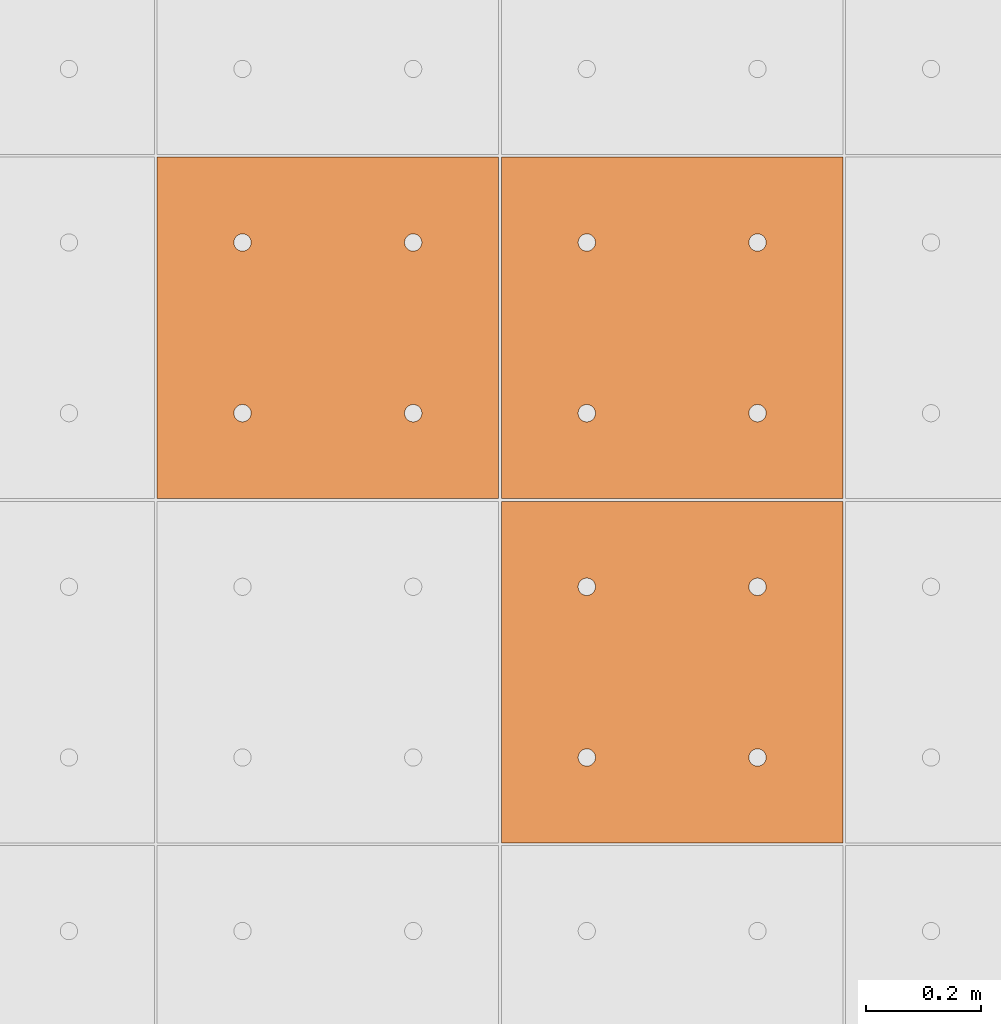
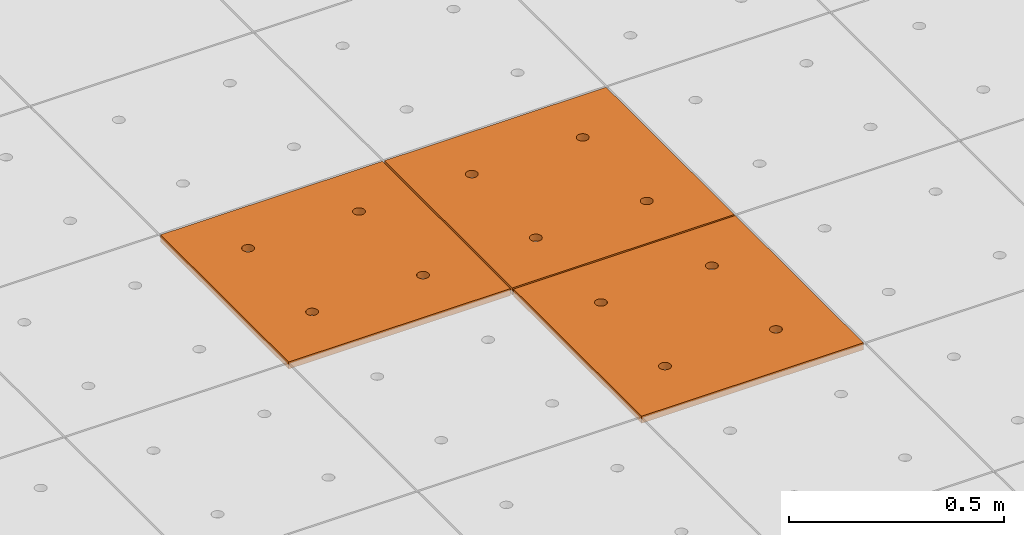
# One storey, part 266 of 338: 3 proxies, 1 element without a shape of its own.
"""IFC2X3 building model written with IfcOpenShell, lengths in millimetres."""

from ifc_helpers import new_model, entity, si_unit, converted_unit, derived_unit, money_unit, direction, frame, origin_with_axes, place, context, subcontext, project, spatial, faceted_brep, source, transform, mapped, material, type_object, type_shapes, element, aggregate, save


model = new_model("IFC2X3")

# Units and contexts
model_context = context("Model", 3, precision=0.01, world=origin_with_axes(), true_north=direction((0.0, 1.0)))
plan_context = context("Plan", 3, precision=0.01, world=origin_with_axes(), true_north=direction((0.0, 1.0)))
body_context = subcontext(model_context, "Body", "Model", "MODEL_VIEW")
ifc_project = project(units=[si_unit("LENGTHUNIT", "METRE", prefix="MILLI"), si_unit("AREAUNIT", "SQUARE_METRE"), si_unit("VOLUMEUNIT", "CUBIC_METRE"), converted_unit("PLANEANGLEUNIT", "DEGREE", entity("IfcPlaneAngleMeasure", 0.0174532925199), si_unit("PLANEANGLEUNIT", "RADIAN"), dimensions=[0, 0, 0, 0, 0, 0, 0]), money_unit("EUR"), converted_unit("TIMEUNIT", "Year", entity("IfcTimeMeasure", 31556926.0), si_unit("TIMEUNIT", "SECOND"), dimensions=[0, 0, 1, 0, 0, 0, 0]), si_unit("MASSUNIT", "GRAM", prefix="KILO"), si_unit("THERMODYNAMICTEMPERATUREUNIT", "DEGREE_CELSIUS"), si_unit("LUMINOUSINTENSITYUNIT", "LUMEN"), si_unit("ENERGYUNIT", "JOULE", prefix="MEGA"), derived_unit("THERMALCONDUCTANCEUNIT", [(si_unit("POWERUNIT", "WATT"), 1), (si_unit("LENGTHUNIT", "METRE"), -1), (si_unit("THERMODYNAMICTEMPERATUREUNIT", "KELVIN"), -1)]), derived_unit("SPECIFICHEATCAPACITYUNIT", [(si_unit("ENERGYUNIT", "JOULE"), 1), (si_unit("MASSUNIT", "GRAM", prefix="KILO"), -1), (si_unit("THERMODYNAMICTEMPERATUREUNIT", "KELVIN"), -1)]), derived_unit("MASSDENSITYUNIT", [(si_unit("MASSUNIT", "GRAM", prefix="KILO"), 1), (si_unit("VOLUMEUNIT", "CUBIC_METRE"), -1)])], contexts=[model_context, plan_context])

# Site, building, storey
site_placement = place(None, origin_with_axes())
site = spatial("IfcSite", under=ifc_project, at=site_placement, Name="Fortuinstraat Woensdrecht", CompositionType="ELEMENT")
building_placement = place(site_placement, origin_with_axes())
building = spatial("IfcBuilding", under=site, at=building_placement, Name="IKC Fortuna", CompositionType="ELEMENT")
storey_placement = place(building_placement, origin_with_axes())
storey = spatial("IfcBuildingStorey", under=building, at=storey_placement, Name="00 begane grond", CompositionType="ELEMENT", Elevation=0.0)

# Covering, proxies
covering_type = type_object("IfcCoveringType", Name="Curtain Wall Type", PredefinedType="CEILING")
covering_placement = place(storey_placement, frame((31656.9226967, 15748.5304598, 3210.0), z_axis=(0.0, 0.0, 1.0), x_axis=(1.0, 0.0, 0.0)))
covering = element("IfcCovering", 1, at=covering_placement, inside=storey, type_object=covering_type, Name="45_Plafondafwerking_P01", PredefinedType="CEILING")
ifc_material = material(Name="Gipsplaat")
building_element_proxy_type = type_object("IfcBuildingElementProxyType", Name="Main Panel 600 x 600 x 20", PredefinedType="NOTDEFINED")
shared_shape = source(origin_with_axes(), body_context, "Body", "Brep", [
    faceted_brep([(2.49999999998, 2.49999999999, -10.0), (300.0, 2.49999999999, -10.0), (300.0, 2.49999999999, 10.0), (2.49999999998, 2.49999999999, 10.0), (2.49999999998, 300.0, -10.0), (2.49999999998, 597.5, -10.0), (300.0, 597.5, -10.0), (597.5, 597.5, -10.0), (597.5, 300.0, -10.0), (597.5, 2.49999999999, -10.0), (166.25, 450.06232995, -10.0), (165.79423259, 452.64711538, -10.0), (164.896546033, 455.11348892, -10.0), (163.58421608, 457.38651108, -10.0), (161.897117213, 459.39711721, -10.0), (159.886511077, 461.08421608, -10.0), (157.613488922, 462.39654603, -10.0), (155.147115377, 463.29423259, -10.0), (152.562329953, 463.75, -10.0), (149.937670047, 463.75, -10.0), (147.352884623, 463.29423259, -10.0), (144.886511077, 462.39654603, -10.0), (142.613488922, 461.08421608, -10.0), (140.602882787, 459.39711721, -10.0), (138.91578392, 457.38651108, -10.0), (137.603453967, 455.11348892, -10.0), (136.705767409, 452.64711538, -10.0), (136.25, 450.06232995, -10.0), (136.25, 448.75, -10.0), (136.25, 447.43767005, -10.0), (136.705767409, 444.85288462, -10.0), (137.603453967, 442.38651108, -10.0), (138.91578392, 440.11348892, -10.0), (140.602882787, 438.10288279, -10.0), (142.613488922, 436.41578392, -10.0), (144.886511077, 435.10345397, -10.0), (147.352884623, 434.20576741, -10.0), (149.937670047, 433.75, -10.0), (152.562329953, 433.75, -10.0), (155.147115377, 434.20576741, -10.0), (157.613488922, 435.10345397, -10.0), (159.886511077, 436.41578392, -10.0), (161.897117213, 438.10288279, -10.0), (163.58421608, 440.11348892, -10.0), (164.896546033, 442.38651108, -10.0), (165.79423259, 444.85288462, -10.0), (166.25, 447.43767005, -10.0), (463.75, 450.06232995, -10.0), (463.29423259, 452.64711538, -10.0), (462.396546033, 455.11348892, -10.0), (461.08421608, 457.38651108, -10.0), (459.397117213, 459.39711721, -10.0), (457.386511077, 461.08421608, -10.0), (455.113488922, 462.39654603, -10.0), (452.647115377, 463.29423259, -10.0), (450.062329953, 463.75, -10.0), (447.437670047, 463.75, -10.0), (444.852884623, 463.29423259, -10.0), (442.386511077, 462.39654603, -10.0), (440.113488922, 461.08421608, -10.0), (438.102882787, 459.39711721, -10.0), (436.41578392, 457.38651108, -10.0), (435.103453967, 455.11348892, -10.0), (434.205767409, 452.64711538, -10.0), (433.75, 450.06232995, -10.0), (433.75, 448.75, -10.0), (433.75, 447.43767005, -10.0), (434.205767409, 444.85288462, -10.0), (435.103453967, 442.38651108, -10.0), (436.41578392, 440.11348892, -10.0), (438.102882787, 438.10288279, -10.0), (440.113488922, 436.41578392, -10.0), (442.386511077, 435.10345397, -10.0), (444.852884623, 434.20576741, -10.0), (447.437670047, 433.75, -10.0), (450.062329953, 433.75, -10.0), (452.647115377, 434.20576741, -10.0), (455.113488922, 435.10345397, -10.0), (457.386511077, 436.41578392, -10.0), (459.397117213, 438.10288279, -10.0), (461.08421608, 440.11348892, -10.0), (462.396546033, 442.38651108, -10.0), (463.29423259, 444.85288462, -10.0), (463.75, 447.43767005, -10.0), (463.75, 152.56232995, -10.0), (463.29423259, 155.14711538, -10.0), (462.396546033, 157.61348892, -10.0), (461.08421608, 159.88651108, -10.0), (459.397117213, 161.89711721, -10.0), (457.386511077, 163.58421608, -10.0), (455.113488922, 164.89654603, -10.0), (452.647115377, 165.79423259, -10.0), (450.062329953, 166.25, -10.0), (447.437670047, 166.25, -10.0), (444.852884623, 165.79423259, -10.0), (442.386511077, 164.89654603, -10.0), (440.113488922, 163.58421608, -10.0), (438.102882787, 161.89711721, -10.0), (436.41578392, 159.88651108, -10.0), (435.103453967, 157.61348892, -10.0), (434.205767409, 155.14711538, -10.0), (433.75, 152.56232995, -10.0), (433.75, 151.25, -10.0), (433.75, 149.93767005, -10.0), (434.205767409, 147.35288462, -10.0), (435.103453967, 144.88651108, -10.0), (436.41578392, 142.61348892, -10.0), (438.102882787, 140.60288279, -10.0), (440.113488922, 138.91578392, -10.0), (442.386511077, 137.60345397, -10.0), (444.852884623, 136.70576741, -10.0), (447.437670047, 136.25, -10.0), (450.062329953, 136.25, -10.0), (452.647115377, 136.70576741, -10.0), (455.113488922, 137.60345397, -10.0), (457.386511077, 138.91578392, -10.0), (459.397117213, 140.60288279, -10.0), (461.08421608, 142.61348892, -10.0), (462.396546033, 144.88651108, -10.0), (463.29423259, 147.35288462, -10.0), (463.75, 149.93767005, -10.0), (166.25, 152.56232995, -10.0), (165.79423259, 155.14711538, -10.0), (164.896546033, 157.61348892, -10.0), (163.58421608, 159.88651108, -10.0), (161.897117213, 161.89711721, -10.0), (159.886511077, 163.58421608, -10.0), (157.613488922, 164.89654603, -10.0), (155.147115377, 165.79423259, -10.0), (152.562329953, 166.25, -10.0), (149.937670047, 166.25, -10.0), (147.352884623, 165.79423259, -10.0), (144.886511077, 164.89654603, -10.0), (142.613488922, 163.58421608, -10.0), (140.602882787, 161.89711721, -10.0), (138.91578392, 159.88651108, -10.0), (137.603453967, 157.61348892, -10.0), (136.705767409, 155.14711538, -10.0), (136.25, 152.56232995, -10.0), (136.25, 151.25, -10.0), (136.25, 149.93767005, -10.0), (136.705767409, 147.35288462, -10.0), (137.603453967, 144.88651108, -10.0), (138.91578392, 142.61348892, -10.0), (140.602882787, 140.60288279, -10.0), (142.613488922, 138.91578392, -10.0), (144.886511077, 137.60345397, -10.0), (147.352884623, 136.70576741, -10.0), (149.937670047, 136.25, -10.0), (152.562329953, 136.25, -10.0), (155.147115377, 136.70576741, -10.0), (157.613488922, 137.60345397, -10.0), (159.886511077, 138.91578392, -10.0), (161.897117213, 140.60288279, -10.0), (163.58421608, 142.61348892, -10.0), (164.896546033, 144.88651108, -10.0), (165.79423259, 147.35288462, -10.0), (166.25, 149.93767005, -10.0), (597.5, 2.49999999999, 10.0), (597.5, 300.0, 10.0), (597.5, 597.5, 10.0), (300.0, 597.5, 10.0), (2.49999999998, 597.5, 10.0), (2.49999999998, 300.0, 10.0), (166.25, 450.06232995, 10.0), (166.25, 447.43767005, 10.0), (165.79423259, 444.85288462, 10.0), (164.896546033, 442.38651108, 10.0), (163.58421608, 440.11348892, 10.0), (161.897117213, 438.10288279, 10.0), (159.886511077, 436.41578392, 10.0), (157.613488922, 435.10345397, 10.0), (155.147115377, 434.20576741, 10.0), (152.562329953, 433.75, 10.0), (149.937670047, 433.75, 10.0), (147.352884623, 434.20576741, 10.0), (144.886511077, 435.10345397, 10.0), (142.613488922, 436.41578392, 10.0), (140.602882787, 438.10288279, 10.0), (138.91578392, 440.11348892, 10.0), (137.603453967, 442.38651108, 10.0), (136.705767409, 444.85288462, 10.0), (136.25, 447.43767005, 10.0), (136.25, 448.75, 10.0), (136.25, 450.06232995, 10.0), (136.705767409, 452.64711538, 10.0), (137.603453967, 455.11348892, 10.0), (138.91578392, 457.38651108, 10.0), (140.602882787, 459.39711721, 10.0), (142.613488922, 461.08421608, 10.0), (144.886511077, 462.39654603, 10.0), (147.352884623, 463.29423259, 10.0), (149.937670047, 463.75, 10.0), (152.562329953, 463.75, 10.0), (155.147115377, 463.29423259, 10.0), (157.613488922, 462.39654603, 10.0), (159.886511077, 461.08421608, 10.0), (161.897117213, 459.39711721, 10.0), (163.58421608, 457.38651108, 10.0), (164.896546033, 455.11348892, 10.0), (165.79423259, 452.64711538, 10.0), (463.75, 450.06232995, 10.0), (463.75, 447.43767005, 10.0), (463.29423259, 444.85288462, 10.0), (462.396546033, 442.38651108, 10.0), (461.08421608, 440.11348892, 10.0), (459.397117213, 438.10288279, 10.0), (457.386511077, 436.41578392, 10.0), (455.113488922, 435.10345397, 10.0), (452.647115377, 434.20576741, 10.0), (450.062329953, 433.75, 10.0), (447.437670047, 433.75, 10.0), (444.852884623, 434.20576741, 10.0), (442.386511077, 435.10345397, 10.0), (440.113488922, 436.41578392, 10.0), (438.102882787, 438.10288279, 10.0), (436.41578392, 440.11348892, 10.0), (435.103453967, 442.38651108, 10.0), (434.205767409, 444.85288462, 10.0), (433.75, 447.43767005, 10.0), (433.75, 448.75, 10.0), (433.75, 450.06232995, 10.0), (434.205767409, 452.64711538, 10.0), (435.103453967, 455.11348892, 10.0), (436.41578392, 457.38651108, 10.0), (438.102882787, 459.39711721, 10.0), (440.113488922, 461.08421608, 10.0), (442.386511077, 462.39654603, 10.0), (444.852884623, 463.29423259, 10.0), (447.437670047, 463.75, 10.0), (450.062329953, 463.75, 10.0), (452.647115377, 463.29423259, 10.0), (455.113488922, 462.39654603, 10.0), (457.386511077, 461.08421608, 10.0), (459.397117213, 459.39711721, 10.0), (461.08421608, 457.38651108, 10.0), (462.396546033, 455.11348892, 10.0), (463.29423259, 452.64711538, 10.0), (463.75, 152.56232995, 10.0), (463.75, 149.93767005, 10.0), (463.29423259, 147.35288462, 10.0), (462.396546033, 144.88651108, 10.0), (461.08421608, 142.61348892, 10.0), (459.397117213, 140.60288279, 10.0), (457.386511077, 138.91578392, 10.0), (455.113488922, 137.60345397, 10.0), (452.647115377, 136.70576741, 10.0), (450.062329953, 136.25, 10.0), (447.437670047, 136.25, 10.0), (444.852884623, 136.70576741, 10.0), (442.386511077, 137.60345397, 10.0), (440.113488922, 138.91578392, 10.0), (438.102882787, 140.60288279, 10.0), (436.41578392, 142.61348892, 10.0), (435.103453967, 144.88651108, 10.0), (434.205767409, 147.35288462, 10.0), (433.75, 149.93767005, 10.0), (433.75, 151.25, 10.0), (433.75, 152.56232995, 10.0), (434.205767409, 155.14711538, 10.0), (435.103453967, 157.61348892, 10.0), (436.41578392, 159.88651108, 10.0), (438.102882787, 161.89711721, 10.0), (440.113488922, 163.58421608, 10.0), (442.386511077, 164.89654603, 10.0), (444.852884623, 165.79423259, 10.0), (447.437670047, 166.25, 10.0), (450.062329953, 166.25, 10.0), (452.647115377, 165.79423259, 10.0), (455.113488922, 164.89654603, 10.0), (457.386511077, 163.58421608, 10.0), (459.397117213, 161.89711721, 10.0), (461.08421608, 159.88651108, 10.0), (462.396546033, 157.61348892, 10.0), (463.29423259, 155.14711538, 10.0), (166.25, 152.56232995, 10.0), (166.25, 149.93767005, 10.0), (165.79423259, 147.35288462, 10.0), (164.896546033, 144.88651108, 10.0), (163.58421608, 142.61348892, 10.0), (161.897117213, 140.60288279, 10.0), (159.886511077, 138.91578392, 10.0), (157.613488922, 137.60345397, 10.0), (155.147115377, 136.70576741, 10.0), (152.562329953, 136.25, 10.0), (149.937670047, 136.25, 10.0), (147.352884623, 136.70576741, 10.0), (144.886511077, 137.60345397, 10.0), (142.613488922, 138.91578392, 10.0), (140.602882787, 140.60288279, 10.0), (138.91578392, 142.61348892, 10.0), (137.603453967, 144.88651108, 10.0), (136.705767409, 147.35288462, 10.0), (136.25, 149.93767005, 10.0), (136.25, 151.25, 10.0), (136.25, 152.56232995, 10.0), (136.705767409, 155.14711538, 10.0), (137.603453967, 157.61348892, 10.0), (138.91578392, 159.88651108, 10.0), (140.602882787, 161.89711721, 10.0), (142.613488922, 163.58421608, 10.0), (144.886511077, 164.89654603, 10.0), (147.352884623, 165.79423259, 10.0), (149.937670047, 166.25, 10.0), (152.562329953, 166.25, 10.0), (155.147115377, 165.79423259, 10.0), (157.613488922, 164.89654603, 10.0), (159.886511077, 163.58421608, 10.0), (161.897117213, 161.89711721, 10.0), (163.58421608, 159.88651108, 10.0), (164.896546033, 157.61348892, 10.0), (165.79423259, 155.14711538, 10.0)], [[[0, 1, 2, 3]], [[0, 4, 5, 6, 7, 8, 9, 1], [10, 11, 12, 13, 14, 15, 16, 17, 18, 19, 20, 21, 22, 23, 24, 25, 26, 27, 28, 29, 30, 31, 32, 33, 34, 35, 36, 37, 38, 39, 40, 41, 42, 43, 44, 45, 46], [47, 48, 49, 50, 51, 52, 53, 54, 55, 56, 57, 58, 59, 60, 61, 62, 63, 64, 65, 66, 67, 68, 69, 70, 71, 72, 73, 74, 75, 76, 77, 78, 79, 80, 81, 82, 83], [84, 85, 86, 87, 88, 89, 90, 91, 92, 93, 94, 95, 96, 97, 98, 99, 100, 101, 102, 103, 104, 105, 106, 107, 108, 109, 110, 111, 112, 113, 114, 115, 116, 117, 118, 119, 120], [121, 122, 123, 124, 125, 126, 127, 128, 129, 130, 131, 132, 133, 134, 135, 136, 137, 138, 139, 140, 141, 142, 143, 144, 145, 146, 147, 148, 149, 150, 151, 152, 153, 154, 155, 156, 157]], [[1, 9, 158, 2]], [[3, 2, 158, 159, 160, 161, 162, 163], [164, 165, 166, 167, 168, 169, 170, 171, 172, 173, 174, 175, 176, 177, 178, 179, 180, 181, 182, 183, 184, 185, 186, 187, 188, 189, 190, 191, 192, 193, 194, 195, 196, 197, 198, 199, 200], [201, 202, 203, 204, 205, 206, 207, 208, 209, 210, 211, 212, 213, 214, 215, 216, 217, 218, 219, 220, 221, 222, 223, 224, 225, 226, 227, 228, 229, 230, 231, 232, 233, 234, 235, 236, 237], [238, 239, 240, 241, 242, 243, 244, 245, 246, 247, 248, 249, 250, 251, 252, 253, 254, 255, 256, 257, 258, 259, 260, 261, 262, 263, 264, 265, 266, 267, 268, 269, 270, 271, 272, 273, 274], [275, 276, 277, 278, 279, 280, 281, 282, 283, 284, 285, 286, 287, 288, 289, 290, 291, 292, 293, 294, 295, 296, 297, 298, 299, 300, 301, 302, 303, 304, 305, 306, 307, 308, 309, 310, 311]], [[4, 0, 3, 163]], [[5, 4, 163, 162]], [[6, 5, 162, 161]], [[7, 6, 161, 160]], [[8, 7, 160, 159]], [[9, 8, 159, 158]], [[11, 10, 164, 200]], [[12, 11, 200, 199]], [[13, 12, 199, 198]], [[14, 13, 198, 197]], [[15, 14, 197, 196]], [[16, 15, 196, 195]], [[17, 16, 195, 194]], [[18, 17, 194, 193]], [[19, 18, 193, 192]], [[20, 19, 192, 191]], [[21, 20, 191, 190]], [[22, 21, 190, 189]], [[23, 22, 189, 188]], [[24, 23, 188, 187]], [[25, 24, 187, 186]], [[26, 25, 186, 185]], [[27, 26, 185, 184]], [[28, 27, 184, 183]], [[29, 28, 183, 182]], [[30, 29, 182, 181]], [[31, 30, 181, 180]], [[32, 31, 180, 179]], [[33, 32, 179, 178]], [[34, 33, 178, 177]], [[35, 34, 177, 176]], [[36, 35, 176, 175]], [[37, 36, 175, 174]], [[38, 37, 174, 173]], [[39, 38, 173, 172]], [[40, 39, 172, 171]], [[41, 40, 171, 170]], [[42, 41, 170, 169]], [[43, 42, 169, 168]], [[44, 43, 168, 167]], [[45, 44, 167, 166]], [[46, 45, 166, 165]], [[10, 46, 165, 164]], [[48, 47, 201, 237]], [[49, 48, 237, 236]], [[50, 49, 236, 235]], [[51, 50, 235, 234]], [[52, 51, 234, 233]], [[53, 52, 233, 232]], [[54, 53, 232, 231]], [[55, 54, 231, 230]], [[56, 55, 230, 229]], [[57, 56, 229, 228]], [[58, 57, 228, 227]], [[59, 58, 227, 226]], [[60, 59, 226, 225]], [[61, 60, 225, 224]], [[62, 61, 224, 223]], [[63, 62, 223, 222]], [[64, 63, 222, 221]], [[65, 64, 221, 220]], [[66, 65, 220, 219]], [[67, 66, 219, 218]], [[68, 67, 218, 217]], [[69, 68, 217, 216]], [[70, 69, 216, 215]], [[71, 70, 215, 214]], [[72, 71, 214, 213]], [[73, 72, 213, 212]], [[74, 73, 212, 211]], [[75, 74, 211, 210]], [[76, 75, 210, 209]], [[77, 76, 209, 208]], [[78, 77, 208, 207]], [[79, 78, 207, 206]], [[80, 79, 206, 205]], [[81, 80, 205, 204]], [[82, 81, 204, 203]], [[83, 82, 203, 202]], [[47, 83, 202, 201]], [[85, 84, 238, 274]], [[86, 85, 274, 273]], [[87, 86, 273, 272]], [[88, 87, 272, 271]], [[89, 88, 271, 270]], [[90, 89, 270, 269]], [[91, 90, 269, 268]], [[92, 91, 268, 267]], [[93, 92, 267, 266]], [[94, 93, 266, 265]], [[95, 94, 265, 264]], [[96, 95, 264, 263]], [[97, 96, 263, 262]], [[98, 97, 262, 261]], [[99, 98, 261, 260]], [[100, 99, 260, 259]], [[101, 100, 259, 258]], [[102, 101, 258, 257]], [[103, 102, 257, 256]], [[104, 103, 256, 255]], [[105, 104, 255, 254]], [[106, 105, 254, 253]], [[107, 106, 253, 252]], [[108, 107, 252, 251]], [[109, 108, 251, 250]], [[110, 109, 250, 249]], [[111, 110, 249, 248]], [[112, 111, 248, 247]], [[113, 112, 247, 246]], [[114, 113, 246, 245]], [[115, 114, 245, 244]], [[116, 115, 244, 243]], [[117, 116, 243, 242]], [[118, 117, 242, 241]], [[119, 118, 241, 240]], [[120, 119, 240, 239]], [[84, 120, 239, 238]], [[122, 121, 275, 311]], [[123, 122, 311, 310]], [[124, 123, 310, 309]], [[125, 124, 309, 308]], [[126, 125, 308, 307]], [[127, 126, 307, 306]], [[128, 127, 306, 305]], [[129, 128, 305, 304]], [[130, 129, 304, 303]], [[131, 130, 303, 302]], [[132, 131, 302, 301]], [[133, 132, 301, 300]], [[134, 133, 300, 299]], [[135, 134, 299, 298]], [[136, 135, 298, 297]], [[137, 136, 297, 296]], [[138, 137, 296, 295]], [[139, 138, 295, 294]], [[140, 139, 294, 293]], [[141, 140, 293, 292]], [[142, 141, 292, 291]], [[143, 142, 291, 290]], [[144, 143, 290, 289]], [[145, 144, 289, 288]], [[146, 145, 288, 287]], [[147, 146, 287, 286]], [[148, 147, 286, 285]], [[149, 148, 285, 284]], [[150, 149, 284, 283]], [[151, 150, 283, 282]], [[152, 151, 282, 281]], [[153, 152, 281, 280]], [[154, 153, 280, 279]], [[155, 154, 279, 278]], [[156, 155, 278, 277]], [[157, 156, 277, 276]], [[121, 157, 276, 275]]]),
])
type_shapes(building_element_proxy_type, [shared_shape])
proxy_1_placement = place(covering_placement, frame((1200.0, 600.0, 0.0), z_axis=(0.0, 0.0, 1.0), x_axis=(1.0, 0.0, 0.0)))
proxy_1 = element("IfcBuildingElementProxy", 2, at=proxy_1_placement, type_object=building_element_proxy_type, material=ifc_material, Name="__600x605 Rockfon Krios", context=body_context, shape_type="MappedRepresentation", body=[
    mapped(shared_shape, transform((300.0, 300.0, 0.0), x_axis=(-1.0, 0.0, 0.0), y_axis=(0.0, -1.0, 0.0), z_axis=(0.0, 0.0, 1.0))),
])
proxy_2_placement = place(covering_placement, frame((600.0, 600.0, 0.0), z_axis=(0.0, 0.0, 1.0), x_axis=(1.0, 0.0, 0.0)))
proxy_2 = element("IfcBuildingElementProxy", 3, at=proxy_2_placement, type_object=building_element_proxy_type, material=ifc_material, Name="__600x607 Rockfon Krios", context=body_context, shape_type="MappedRepresentation", body=[
    mapped(shared_shape, transform((300.0, 300.0, 0.0), x_axis=(-1.0, 0.0, 0.0), y_axis=(0.0, -1.0, 0.0), z_axis=(0.0, 0.0, 1.0))),
])
proxy_3_placement = place(covering_placement, frame((1200.0, 0.0, 0.0), z_axis=(0.0, 0.0, 1.0), x_axis=(1.0, 0.0, 0.0)))
proxy_3 = element("IfcBuildingElementProxy", 4, at=proxy_3_placement, type_object=building_element_proxy_type, material=ifc_material, Name="__600x611 Rockfon Krios", context=body_context, shape_type="MappedRepresentation", body=[
    mapped(shared_shape, transform((300.0, 300.0, 0.0), x_axis=(-1.0, 0.0, 0.0), y_axis=(0.0, -1.0, 0.0), z_axis=(0.0, 0.0, 1.0))),
])
aggregate(covering, [proxy_1, proxy_2, proxy_3])

save(model, "model.ifc")
